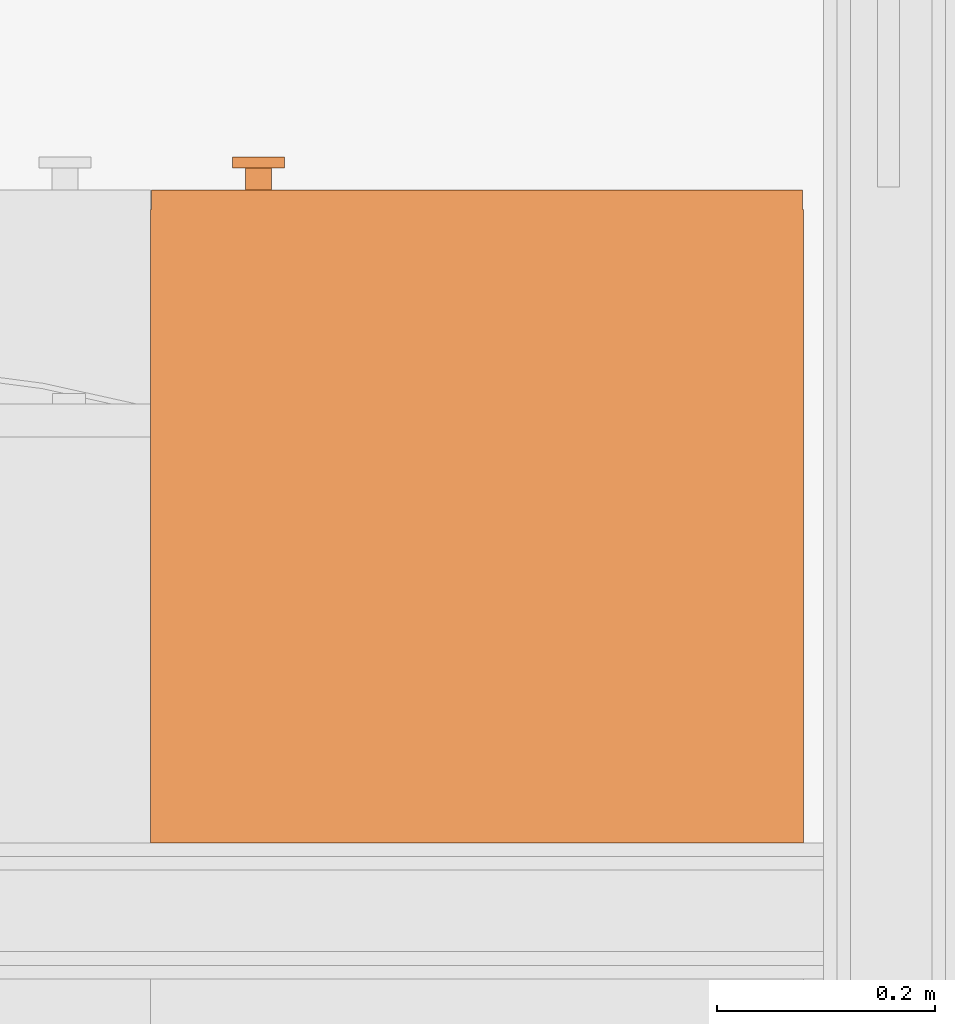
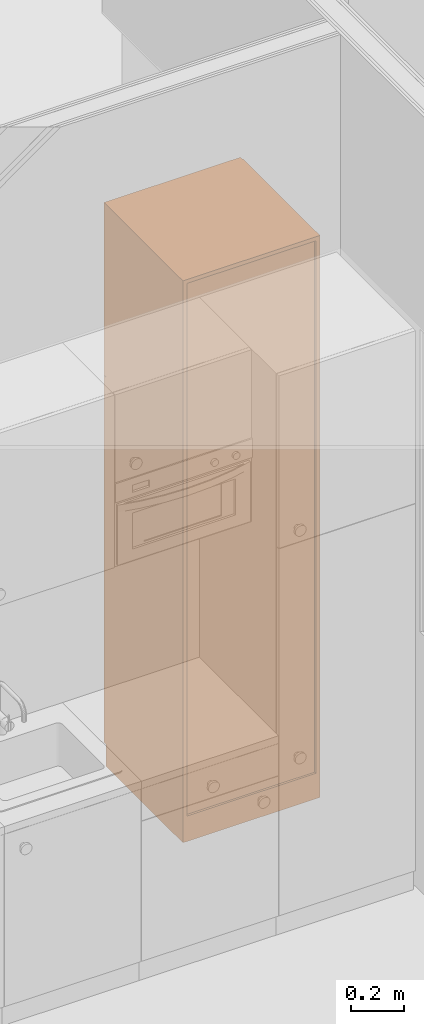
# One storey, part 149 of 165: 1 proxy.
"""IFC2X3 building model written with IfcOpenShell, lengths in millimetres."""

from ifc_helpers import new_model, entity, si_unit, converted_unit, derived_unit, money_unit, direction, frame, origin_with_axes, place, context, subcontext, project, spatial, faceted_brep, type_object, element, save


model = new_model("IFC2X3")

# Units and contexts
model_context = context("Model", 3, precision=0.01, world=origin_with_axes(), true_north=direction((0.0, 1.0)))
body_context = subcontext(model_context, "Body", "Model", "MODEL_VIEW")
ifc_project = project(units=[si_unit("LENGTHUNIT", "METRE", prefix="MILLI"), si_unit("AREAUNIT", "SQUARE_METRE"), si_unit("VOLUMEUNIT", "CUBIC_METRE"), converted_unit("PLANEANGLEUNIT", "DEGREE", entity("IfcPlaneAngleMeasure", 0.0174532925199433), si_unit("PLANEANGLEUNIT", "RADIAN"), dimensions=[0, 0, 0, 0, 0, 0, 0]), money_unit("EUR"), converted_unit("TIMEUNIT", "Year", entity("IfcTimeMeasure", 31556926.0), si_unit("TIMEUNIT", "SECOND"), dimensions=[0, 0, 1, 0, 0, 0, 0]), si_unit("MASSUNIT", "GRAM", prefix="KILO"), si_unit("THERMODYNAMICTEMPERATUREUNIT", "DEGREE_CELSIUS"), si_unit("LUMINOUSINTENSITYUNIT", "LUMEN"), si_unit("ENERGYUNIT", "JOULE", prefix="MEGA"), derived_unit("THERMALCONDUCTANCEUNIT", [(si_unit("POWERUNIT", "WATT"), 1), (si_unit("LENGTHUNIT", "METRE"), -1), (si_unit("THERMODYNAMICTEMPERATUREUNIT", "KELVIN"), -1)]), derived_unit("SPECIFICHEATCAPACITYUNIT", [(si_unit("ENERGYUNIT", "JOULE"), 1), (si_unit("MASSUNIT", "GRAM", prefix="KILO"), -1), (si_unit("THERMODYNAMICTEMPERATUREUNIT", "KELVIN"), -1)]), derived_unit("MASSDENSITYUNIT", [(si_unit("MASSUNIT", "GRAM", prefix="KILO"), 1), (si_unit("VOLUMEUNIT", "CUBIC_METRE"), -1)])], contexts=[model_context])

# Site, building, storey
site_placement = place(None, origin_with_axes())
site = spatial("IfcSite", under=ifc_project, at=site_placement, Name="Site", CompositionType="ELEMENT")
building_placement = place(site_placement, origin_with_axes())
building = spatial("IfcBuilding", under=site, at=building_placement, Name="Naam gebouw", CompositionType="ELEMENT")
storey_placement = place(building_placement, origin_with_axes())
storey = spatial("IfcBuildingStorey", under=building, at=storey_placement, Name="Begane grond", CompositionType="ELEMENT", Elevation=0.0)

# Proxy
building_element_proxy_type = type_object("IfcBuildingElementProxyType", Name="Hoge kast recht 26", PredefinedType="NOTDEFINED")
proxy_placement = place(storey_placement, frame((3232.000570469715, 11432.50085425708, 0.0), z_axis=(0.0, 0.0, 1.0), x_axis=(-0.9999999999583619, 9.125581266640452e-06, 0.0)))
element("IfcBuildingElementProxy", 1, at=proxy_placement, inside=storey, type_object=building_element_proxy_type, Name="_Leeg", context=body_context, shape_type="Brep", body=[
    faceted_brep([(18.0, -582.0, 1791.0), (582.0, -582.0, 1791.0), (582.0, -582.0, 1809.0), (18.0, -582.0, 1809.0), (18.0, -18.0, 1791.0), (582.0, -18.0, 1791.0), (582.0, -18.0, 1809.0), (18.0, -18.0, 1809.0)], [[[0, 1, 2, 3]], [[0, 4, 5, 1]], [[1, 5, 6, 2]], [[3, 2, 6, 7]], [[4, 0, 3, 7]], [[5, 4, 7, 6]]]),
    faceted_brep([(512.8176930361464, -600.0, 817.9162218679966), (512.2763114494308, -600.0, 815.8957582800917), (511.3923048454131, -600.0, 813.9999999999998), (510.1925333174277, -600.0, 812.2865486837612), (508.7134513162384, -600.0, 810.807466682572), (506.9999999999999, -600.0, 809.6076951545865), (505.1042417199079, -600.0, 808.7236885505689), (503.083778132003, -600.0, 808.1823069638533), (500.9999999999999, -600.0, 807.9999999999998), (498.9162218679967, -600.0, 808.1823069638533), (496.8957582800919, -600.0, 808.7236885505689), (494.9999999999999, -600.0, 809.6076951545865), (493.2865486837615, -600.0, 810.807466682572), (491.8074666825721, -600.0, 812.2865486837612), (490.6076951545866, -600.0, 813.9999999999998), (489.723688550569, -600.0, 815.8957582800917), (489.1823069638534, -600.0, 817.9162218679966), (488.9999999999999, -600.0, 819.9999999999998), (489.1823069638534, -600.0, 822.0837781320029), (489.723688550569, -600.0, 824.1042417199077), (490.6076951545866, -600.0, 825.9999999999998), (491.8074666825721, -600.0, 827.7134513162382), (493.2865486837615, -600.0, 829.1925333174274), (494.9999999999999, -600.0, 830.392304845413), (496.8957582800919, -600.0, 831.2763114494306), (498.9162218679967, -600.0, 831.8176930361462), (500.9999999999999, -600.0, 831.9999999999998), (503.083778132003, -600.0, 831.8176930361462), (505.1042417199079, -600.0, 831.2763114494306), (506.9999999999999, -600.0, 830.392304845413), (508.7134513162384, -600.0, 829.1925333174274), (510.1925333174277, -600.0, 827.7134513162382), (511.3923048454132, -600.0, 825.9999999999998), (512.2763114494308, -600.0, 824.1042417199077), (512.8176930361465, -600.0, 822.0837781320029), (512.9999999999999, -600.0, 819.9999999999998), (512.8176930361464, -620.0, 817.9162218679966), (512.2763114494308, -620.0, 815.8957582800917), (511.3923048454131, -620.0, 813.9999999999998), (510.1925333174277, -620.0, 812.2865486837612), (508.7134513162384, -620.0, 810.807466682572), (506.9999999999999, -620.0, 809.6076951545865), (505.1042417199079, -620.0, 808.7236885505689), (503.083778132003, -620.0, 808.1823069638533), (500.9999999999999, -620.0, 807.9999999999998), (498.9162218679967, -620.0, 808.1823069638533), (496.8957582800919, -620.0, 808.7236885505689), (494.9999999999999, -620.0, 809.6076951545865), (493.2865486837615, -620.0, 810.807466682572), (491.8074666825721, -620.0, 812.2865486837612), (490.6076951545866, -620.0, 813.9999999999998), (489.723688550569, -620.0, 815.8957582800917), (489.1823069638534, -620.0, 817.9162218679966), (488.9999999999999, -620.0, 819.9999999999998), (489.1823069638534, -620.0, 822.0837781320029), (489.723688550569, -620.0, 824.1042417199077), (490.6076951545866, -620.0, 825.9999999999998), (491.8074666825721, -620.0, 827.7134513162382), (493.2865486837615, -620.0, 829.1925333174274), (494.9999999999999, -620.0, 830.392304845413), (496.8957582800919, -620.0, 831.2763114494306), (498.9162218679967, -620.0, 831.8176930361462), (500.9999999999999, -620.0, 831.9999999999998), (503.083778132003, -620.0, 831.8176930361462), (505.1042417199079, -620.0, 831.2763114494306), (506.9999999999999, -620.0, 830.392304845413), (508.7134513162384, -620.0, 829.1925333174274), (510.1925333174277, -620.0, 827.7134513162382), (511.3923048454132, -620.0, 825.9999999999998), (512.2763114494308, -620.0, 824.1042417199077), (512.8176930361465, -620.0, 822.0837781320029), (512.9999999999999, -620.0, 819.9999999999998)], [[[0, 1, 2, 3, 4, 5, 6, 7, 8, 9, 10, 11, 12, 13, 14, 15, 16, 17, 18, 19, 20, 21, 22, 23, 24, 25, 26, 27, 28, 29, 30, 31, 32, 33, 34, 35]], [[1, 0, 36, 37]], [[2, 1, 37, 38]], [[3, 2, 38, 39]], [[4, 3, 39, 40]], [[5, 4, 40, 41]], [[6, 5, 41, 42]], [[7, 6, 42, 43]], [[8, 7, 43, 44]], [[9, 8, 44, 45]], [[10, 9, 45, 46]], [[11, 10, 46, 47]], [[12, 11, 47, 48]], [[13, 12, 48, 49]], [[14, 13, 49, 50]], [[15, 14, 50, 51]], [[16, 15, 51, 52]], [[17, 16, 52, 53]], [[18, 17, 53, 54]], [[19, 18, 54, 55]], [[20, 19, 55, 56]], [[21, 20, 56, 57]], [[22, 21, 57, 58]], [[23, 22, 58, 59]], [[24, 23, 59, 60]], [[25, 24, 60, 61]], [[26, 25, 61, 62]], [[27, 26, 62, 63]], [[28, 27, 63, 64]], [[29, 28, 64, 65]], [[30, 29, 65, 66]], [[31, 30, 66, 67]], [[32, 31, 67, 68]], [[33, 32, 68, 69]], [[34, 33, 69, 70]], [[35, 34, 70, 71]], [[0, 35, 71, 36]], [[36, 71, 70, 69, 68, 67, 66, 65, 64, 63, 62, 61, 60, 59, 58, 57, 56, 55, 54, 53, 52, 51, 50, 49, 48, 47, 46, 45, 44, 43, 42, 41, 40, 39, 38, 37]]]),
    faceted_brep([(524.6353860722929, -620.0, 815.8324437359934), (523.5526228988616, -620.0, 811.7915165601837), (521.7846096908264, -620.0, 807.9999999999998), (519.3850666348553, -620.0, 804.5730973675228), (516.4269026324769, -620.0, 801.6149333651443), (512.9999999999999, -620.0, 799.2153903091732), (509.208483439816, -620.0, 797.447377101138), (505.1675562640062, -620.0, 796.3646139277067), (500.9999999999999, -620.0, 795.9999999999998), (496.8324437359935, -620.0, 796.3646139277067), (492.7915165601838, -620.0, 797.447377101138), (488.9999999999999, -620.0, 799.2153903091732), (485.573097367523, -620.0, 801.6149333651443), (482.6149333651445, -620.0, 804.5730973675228), (480.2153903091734, -620.0, 807.9999999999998), (478.4473771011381, -620.0, 811.7915165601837), (477.3646139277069, -620.0, 815.8324437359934), (476.9999999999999, -620.0, 819.9999999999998), (477.3646139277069, -620.0, 824.1675562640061), (478.4473771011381, -620.0, 828.2084834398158), (480.2153903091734, -620.0, 831.9999999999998), (482.6149333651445, -620.0, 835.4269026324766), (485.573097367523, -620.0, 838.3850666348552), (488.9999999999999, -620.0, 840.7846096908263), (492.7915165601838, -620.0, 842.5526228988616), (496.8324437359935, -620.0, 843.6353860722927), (500.9999999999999, -620.0, 843.9999999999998), (505.1675562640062, -620.0, 843.6353860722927), (509.208483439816, -620.0, 842.5526228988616), (512.9999999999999, -620.0, 840.7846096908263), (516.4269026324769, -620.0, 838.3850666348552), (519.3850666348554, -620.0, 835.4269026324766), (521.7846096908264, -620.0, 831.9999999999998), (523.5526228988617, -620.0, 828.2084834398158), (524.6353860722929, -620.0, 824.1675562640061), (524.9999999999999, -620.0, 819.9999999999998), (524.6353860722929, -630.0, 815.8324437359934), (523.5526228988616, -630.0, 811.7915165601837), (521.7846096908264, -630.0, 807.9999999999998), (519.3850666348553, -630.0, 804.5730973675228), (516.4269026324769, -630.0, 801.6149333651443), (512.9999999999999, -630.0, 799.2153903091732), (509.208483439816, -630.0, 797.447377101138), (505.1675562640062, -630.0, 796.3646139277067), (500.9999999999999, -630.0, 795.9999999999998), (496.8324437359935, -630.0, 796.3646139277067), (492.7915165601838, -630.0, 797.447377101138), (488.9999999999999, -630.0, 799.2153903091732), (485.573097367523, -630.0, 801.6149333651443), (482.6149333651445, -630.0, 804.5730973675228), (480.2153903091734, -630.0, 807.9999999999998), (478.4473771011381, -630.0, 811.7915165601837), (477.3646139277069, -630.0, 815.8324437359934), (476.9999999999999, -630.0, 819.9999999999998), (477.3646139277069, -630.0, 824.1675562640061), (478.4473771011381, -630.0, 828.2084834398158), (480.2153903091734, -630.0, 831.9999999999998), (482.6149333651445, -630.0, 835.4269026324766), (485.573097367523, -630.0, 838.3850666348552), (488.9999999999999, -630.0, 840.7846096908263), (492.7915165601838, -630.0, 842.5526228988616), (496.8324437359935, -630.0, 843.6353860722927), (500.9999999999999, -630.0, 843.9999999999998), (505.1675562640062, -630.0, 843.6353860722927), (509.208483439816, -630.0, 842.5526228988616), (512.9999999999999, -630.0, 840.7846096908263), (516.4269026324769, -630.0, 838.3850666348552), (519.3850666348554, -630.0, 835.4269026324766), (521.7846096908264, -630.0, 831.9999999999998), (523.5526228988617, -630.0, 828.2084834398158), (524.6353860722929, -630.0, 824.1675562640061), (524.9999999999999, -630.0, 819.9999999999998)], [[[0, 1, 2, 3, 4, 5, 6, 7, 8, 9, 10, 11, 12, 13, 14, 15, 16, 17, 18, 19, 20, 21, 22, 23, 24, 25, 26, 27, 28, 29, 30, 31, 32, 33, 34, 35]], [[1, 0, 36, 37]], [[2, 1, 37, 38]], [[3, 2, 38, 39]], [[4, 3, 39, 40]], [[5, 4, 40, 41]], [[6, 5, 41, 42]], [[7, 6, 42, 43]], [[8, 7, 43, 44]], [[9, 8, 44, 45]], [[10, 9, 45, 46]], [[11, 10, 46, 47]], [[12, 11, 47, 48]], [[13, 12, 48, 49]], [[14, 13, 49, 50]], [[15, 14, 50, 51]], [[16, 15, 51, 52]], [[17, 16, 52, 53]], [[18, 17, 53, 54]], [[19, 18, 54, 55]], [[20, 19, 55, 56]], [[21, 20, 56, 57]], [[22, 21, 57, 58]], [[23, 22, 58, 59]], [[24, 23, 59, 60]], [[25, 24, 60, 61]], [[26, 25, 61, 62]], [[27, 26, 62, 63]], [[28, 27, 63, 64]], [[29, 28, 64, 65]], [[30, 29, 65, 66]], [[31, 30, 66, 67]], [[32, 31, 67, 68]], [[33, 32, 68, 69]], [[34, 33, 69, 70]], [[35, 34, 70, 71]], [[0, 35, 71, 36]], [[36, 71, 70, 69, 68, 67, 66, 65, 64, 63, 62, 61, 60, 59, 58, 57, 56, 55, 54, 53, 52, 51, 50, 49, 48, 47, 46, 45, 44, 43, 42, 41, 40, 39, 38, 37]]]),
    faceted_brep([(1.0, -582.0, 101.0), (599.0, -582.0, 101.0), (599.0, -600.0, 101.0), (1.0, -600.0, 101.0), (1.0, -581.9999999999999, 1799.0), (599.0, -581.9999999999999, 1799.0), (599.0, -599.9999999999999, 1799.0), (1.0, -599.9999999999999, 1799.0)], [[[0, 1, 2, 3]], [[0, 4, 5, 1]], [[1, 5, 6, 2]], [[3, 2, 6, 7]], [[4, 0, 3, 7]], [[5, 4, 7, 6]]]),
    faceted_brep([(512.8176930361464, -600.0, 1870.916221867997), (512.2763114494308, -600.0, 1868.895758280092), (511.3923048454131, -600.0, 1867.0), (510.1925333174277, -600.0, 1865.286548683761), (508.7134513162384, -600.0, 1863.807466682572), (506.9999999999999, -600.0, 1862.607695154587), (505.1042417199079, -600.0, 1861.723688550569), (503.083778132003, -600.0, 1861.182306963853), (500.9999999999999, -600.0, 1861.0), (498.9162218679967, -600.0, 1861.182306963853), (496.8957582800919, -600.0, 1861.723688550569), (494.9999999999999, -600.0, 1862.607695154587), (493.2865486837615, -600.0, 1863.807466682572), (491.8074666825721, -600.0, 1865.286548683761), (490.6076951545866, -600.0, 1867.0), (489.723688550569, -600.0, 1868.895758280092), (489.1823069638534, -600.0, 1870.916221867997), (488.9999999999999, -600.0, 1873.0), (489.1823069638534, -600.0, 1875.083778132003), (489.723688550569, -600.0, 1877.104241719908), (490.6076951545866, -600.0, 1879.0), (491.8074666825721, -600.0, 1880.713451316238), (493.2865486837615, -600.0, 1882.192533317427), (494.9999999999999, -600.0, 1883.392304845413), (496.8957582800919, -600.0, 1884.276311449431), (498.9162218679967, -600.0, 1884.817693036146), (500.9999999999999, -600.0, 1885.0), (503.083778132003, -600.0, 1884.817693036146), (505.1042417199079, -600.0, 1884.276311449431), (506.9999999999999, -600.0, 1883.392304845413), (508.7134513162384, -600.0, 1882.192533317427), (510.1925333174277, -600.0, 1880.713451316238), (511.3923048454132, -600.0, 1879.0), (512.2763114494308, -600.0, 1877.104241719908), (512.8176930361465, -600.0, 1875.083778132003), (512.9999999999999, -600.0, 1873.0), (512.8176930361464, -620.0, 1870.916221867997), (512.2763114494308, -620.0, 1868.895758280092), (511.3923048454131, -620.0, 1867.0), (510.1925333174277, -620.0, 1865.286548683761), (508.7134513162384, -620.0, 1863.807466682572), (506.9999999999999, -620.0, 1862.607695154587), (505.1042417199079, -620.0, 1861.723688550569), (503.083778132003, -620.0, 1861.182306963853), (500.9999999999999, -620.0, 1861.0), (498.9162218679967, -620.0, 1861.182306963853), (496.8957582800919, -620.0, 1861.723688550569), (494.9999999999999, -620.0, 1862.607695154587), (493.2865486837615, -620.0, 1863.807466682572), (491.8074666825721, -620.0, 1865.286548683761), (490.6076951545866, -620.0, 1867.0), (489.723688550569, -620.0, 1868.895758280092), (489.1823069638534, -620.0, 1870.916221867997), (488.9999999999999, -620.0, 1873.0), (489.1823069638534, -620.0, 1875.083778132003), (489.723688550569, -620.0, 1877.104241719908), (490.6076951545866, -620.0, 1879.0), (491.8074666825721, -620.0, 1880.713451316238), (493.2865486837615, -620.0, 1882.192533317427), (494.9999999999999, -620.0, 1883.392304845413), (496.8957582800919, -620.0, 1884.276311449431), (498.9162218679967, -620.0, 1884.817693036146), (500.9999999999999, -620.0, 1885.0), (503.083778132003, -620.0, 1884.817693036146), (505.1042417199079, -620.0, 1884.276311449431), (506.9999999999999, -620.0, 1883.392304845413), (508.7134513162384, -620.0, 1882.192533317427), (510.1925333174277, -620.0, 1880.713451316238), (511.3923048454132, -620.0, 1879.0), (512.2763114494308, -620.0, 1877.104241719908), (512.8176930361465, -620.0, 1875.083778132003), (512.9999999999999, -620.0, 1873.0)], [[[0, 1, 2, 3, 4, 5, 6, 7, 8, 9, 10, 11, 12, 13, 14, 15, 16, 17, 18, 19, 20, 21, 22, 23, 24, 25, 26, 27, 28, 29, 30, 31, 32, 33, 34, 35]], [[1, 0, 36, 37]], [[2, 1, 37, 38]], [[3, 2, 38, 39]], [[4, 3, 39, 40]], [[5, 4, 40, 41]], [[6, 5, 41, 42]], [[7, 6, 42, 43]], [[8, 7, 43, 44]], [[9, 8, 44, 45]], [[10, 9, 45, 46]], [[11, 10, 46, 47]], [[12, 11, 47, 48]], [[13, 12, 48, 49]], [[14, 13, 49, 50]], [[15, 14, 50, 51]], [[16, 15, 51, 52]], [[17, 16, 52, 53]], [[18, 17, 53, 54]], [[19, 18, 54, 55]], [[20, 19, 55, 56]], [[21, 20, 56, 57]], [[22, 21, 57, 58]], [[23, 22, 58, 59]], [[24, 23, 59, 60]], [[25, 24, 60, 61]], [[26, 25, 61, 62]], [[27, 26, 62, 63]], [[28, 27, 63, 64]], [[29, 28, 64, 65]], [[30, 29, 65, 66]], [[31, 30, 66, 67]], [[32, 31, 67, 68]], [[33, 32, 68, 69]], [[34, 33, 69, 70]], [[35, 34, 70, 71]], [[0, 35, 71, 36]], [[36, 71, 70, 69, 68, 67, 66, 65, 64, 63, 62, 61, 60, 59, 58, 57, 56, 55, 54, 53, 52, 51, 50, 49, 48, 47, 46, 45, 44, 43, 42, 41, 40, 39, 38, 37]]]),
    faceted_brep([(524.6353860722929, -620.0, 1868.832443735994), (523.5526228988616, -620.0, 1864.791516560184), (521.7846096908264, -620.0, 1861.0), (519.3850666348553, -620.0, 1857.573097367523), (516.4269026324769, -620.0, 1854.614933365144), (512.9999999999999, -620.0, 1852.215390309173), (509.208483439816, -620.0, 1850.447377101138), (505.1675562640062, -620.0, 1849.364613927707), (500.9999999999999, -620.0, 1849.0), (496.8324437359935, -620.0, 1849.364613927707), (492.7915165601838, -620.0, 1850.447377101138), (488.9999999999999, -620.0, 1852.215390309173), (485.573097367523, -620.0, 1854.614933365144), (482.6149333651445, -620.0, 1857.573097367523), (480.2153903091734, -620.0, 1861.0), (478.4473771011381, -620.0, 1864.791516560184), (477.3646139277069, -620.0, 1868.832443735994), (476.9999999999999, -620.0, 1873.0), (477.3646139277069, -620.0, 1877.167556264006), (478.4473771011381, -620.0, 1881.208483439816), (480.2153903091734, -620.0, 1885.0), (482.6149333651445, -620.0, 1888.426902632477), (485.573097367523, -620.0, 1891.385066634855), (488.9999999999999, -620.0, 1893.784609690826), (492.7915165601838, -620.0, 1895.552622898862), (496.8324437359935, -620.0, 1896.635386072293), (500.9999999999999, -620.0, 1897.0), (505.1675562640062, -620.0, 1896.635386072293), (509.208483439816, -620.0, 1895.552622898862), (512.9999999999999, -620.0, 1893.784609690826), (516.4269026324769, -620.0, 1891.385066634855), (519.3850666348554, -620.0, 1888.426902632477), (521.7846096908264, -620.0, 1885.0), (523.5526228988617, -620.0, 1881.208483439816), (524.6353860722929, -620.0, 1877.167556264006), (524.9999999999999, -620.0, 1873.0), (524.6353860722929, -630.0, 1868.832443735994), (523.5526228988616, -630.0, 1864.791516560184), (521.7846096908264, -630.0, 1861.0), (519.3850666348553, -630.0, 1857.573097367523), (516.4269026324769, -630.0, 1854.614933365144), (512.9999999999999, -630.0, 1852.215390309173), (509.208483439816, -630.0, 1850.447377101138), (505.1675562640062, -630.0, 1849.364613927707), (500.9999999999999, -630.0, 1849.0), (496.8324437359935, -630.0, 1849.364613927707), (492.7915165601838, -630.0, 1850.447377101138), (488.9999999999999, -630.0, 1852.215390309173), (485.573097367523, -630.0, 1854.614933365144), (482.6149333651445, -630.0, 1857.573097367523), (480.2153903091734, -630.0, 1861.0), (478.4473771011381, -630.0, 1864.791516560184), (477.3646139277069, -630.0, 1868.832443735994), (476.9999999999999, -630.0, 1873.0), (477.3646139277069, -630.0, 1877.167556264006), (478.4473771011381, -630.0, 1881.208483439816), (480.2153903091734, -630.0, 1885.0), (482.6149333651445, -630.0, 1888.426902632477), (485.573097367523, -630.0, 1891.385066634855), (488.9999999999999, -630.0, 1893.784609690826), (492.7915165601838, -630.0, 1895.552622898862), (496.8324437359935, -630.0, 1896.635386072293), (500.9999999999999, -630.0, 1897.0), (505.1675562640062, -630.0, 1896.635386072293), (509.208483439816, -630.0, 1895.552622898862), (512.9999999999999, -630.0, 1893.784609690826), (516.4269026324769, -630.0, 1891.385066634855), (519.3850666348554, -630.0, 1888.426902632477), (521.7846096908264, -630.0, 1885.0), (523.5526228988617, -630.0, 1881.208483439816), (524.6353860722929, -630.0, 1877.167556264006), (524.9999999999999, -630.0, 1873.0)], [[[0, 1, 2, 3, 4, 5, 6, 7, 8, 9, 10, 11, 12, 13, 14, 15, 16, 17, 18, 19, 20, 21, 22, 23, 24, 25, 26, 27, 28, 29, 30, 31, 32, 33, 34, 35]], [[1, 0, 36, 37]], [[2, 1, 37, 38]], [[3, 2, 38, 39]], [[4, 3, 39, 40]], [[5, 4, 40, 41]], [[6, 5, 41, 42]], [[7, 6, 42, 43]], [[8, 7, 43, 44]], [[9, 8, 44, 45]], [[10, 9, 45, 46]], [[11, 10, 46, 47]], [[12, 11, 47, 48]], [[13, 12, 48, 49]], [[14, 13, 49, 50]], [[15, 14, 50, 51]], [[16, 15, 51, 52]], [[17, 16, 52, 53]], [[18, 17, 53, 54]], [[19, 18, 54, 55]], [[20, 19, 55, 56]], [[21, 20, 56, 57]], [[22, 21, 57, 58]], [[23, 22, 58, 59]], [[24, 23, 59, 60]], [[25, 24, 60, 61]], [[26, 25, 61, 62]], [[27, 26, 62, 63]], [[28, 27, 63, 64]], [[29, 28, 64, 65]], [[30, 29, 65, 66]], [[31, 30, 66, 67]], [[32, 31, 67, 68]], [[33, 32, 68, 69]], [[34, 33, 69, 70]], [[35, 34, 70, 71]], [[0, 35, 71, 36]], [[36, 71, 70, 69, 68, 67, 66, 65, 64, 63, 62, 61, 60, 59, 58, 57, 56, 55, 54, 53, 52, 51, 50, 49, 48, 47, 46, 45, 44, 43, 42, 41, 40, 39, 38, 37]]]),
    faceted_brep([(1.0, -582.0, 1801.0), (599.0, -582.0, 1801.0), (599.0, -600.0, 1801.0), (1.0, -600.0, 1801.0), (1.0, -582.0, 2599.0), (599.0, -582.0, 2599.0), (599.0, -599.9999999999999, 2599.0), (1.0, -599.9999999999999, 2599.0)], [[[0, 1, 2, 3]], [[0, 4, 5, 1]], [[1, 5, 6, 2]], [[3, 2, 6, 7]], [[4, 0, 3, 7]], [[5, 4, 7, 6]]]),
    faceted_brep([(18.0, -582.0, 100.0), (582.0, -582.0, 100.0), (582.0, -582.0, 118.0), (18.0, -582.0, 118.0), (18.0, 0.0, 100.0), (582.0, 0.0, 100.0), (582.0, 0.0, 118.0), (18.0, 0.0, 118.0)], [[[0, 1, 2, 3]], [[0, 4, 5, 1]], [[1, 5, 6, 2]], [[3, 2, 6, 7]], [[4, 0, 3, 7]], [[5, 4, 7, 6]]]),
    faceted_brep([(18.0, -582.0, 2582.0), (582.0, -582.0, 2582.0), (582.0, -582.0, 2600.0), (18.0, -582.0, 2600.0), (18.0, 0.0, 2582.0), (582.0, 0.0, 2582.0), (582.0, 0.0, 2600.0), (18.0, 0.0, 2600.0)], [[[0, 1, 2, 3]], [[0, 4, 5, 1]], [[1, 5, 6, 2]], [[3, 2, 6, 7]], [[4, 0, 3, 7]], [[5, 4, 7, 6]]]),
    faceted_brep([(0.0, 0.0, 100.0), (0.0, -582.0, 100.0), (0.0, -582.0, 2600.0), (0.0, 0.0, 2600.0), (18.0, 0.0, 100.0), (18.0, -582.0, 100.0), (18.0, -582.0, 2600.0), (18.0, 0.0, 2600.0)], [[[0, 1, 2, 3]], [[0, 4, 5, 1]], [[1, 5, 6, 2]], [[3, 2, 6, 7]], [[4, 0, 3, 7]], [[5, 4, 7, 6]]]),
    faceted_brep([(600.0, -582.0, 100.0), (600.0, 0.0, 100.0), (600.0, 0.0, 2600.0), (600.0, -582.0, 2600.0), (582.0, -582.0, 100.0), (582.0, 0.0, 100.0), (582.0, 0.0, 2600.0), (582.0, -582.0, 2600.0)], [[[0, 1, 2, 3]], [[0, 4, 5, 1]], [[1, 5, 6, 2]], [[3, 2, 6, 7]], [[4, 0, 3, 7]], [[5, 4, 7, 6]]]),
    faceted_brep([(582.0, -9.0, 118.0), (18.00000000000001, -9.0, 118.0), (18.00000000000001, -9.0, 2582.0), (582.0, -9.0, 2582.0), (582.0, -18.0, 118.0), (18.00000000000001, -18.0, 118.0), (18.00000000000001, -18.0, 2582.0), (582.0, -18.0, 2582.0)], [[[0, 1, 2, 3]], [[0, 4, 5, 1]], [[1, 5, 6, 2]], [[3, 2, 6, 7]], [[4, 0, 3, 7]], [[5, 4, 7, 6]]]),
    faceted_brep([(0.0, -582.0, 0.0), (600.0, -582.0, 0.0), (600.0, -582.0, 100.0), (0.0, -582.0, 100.0), (0.0, 0.0, 0.0), (600.0, 0.0, 0.0), (600.0, 0.0, 100.0), (0.0, 0.0, 100.0)], [[[0, 1, 2, 3]], [[0, 4, 5, 1]], [[1, 5, 6, 2]], [[3, 2, 6, 7]], [[4, 0, 3, 7]], [[5, 4, 7, 6]]]),
])

save(model, "model.ifc")
